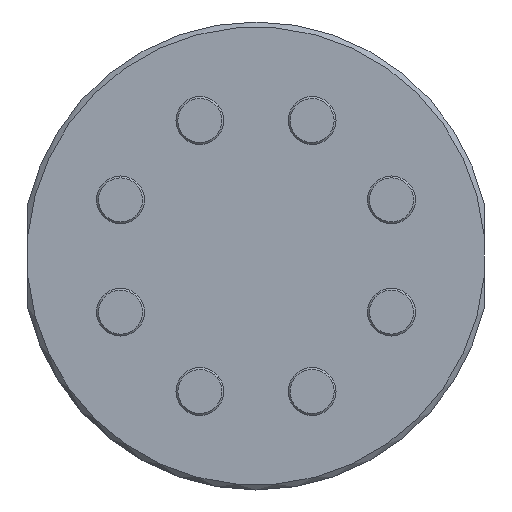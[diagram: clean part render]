
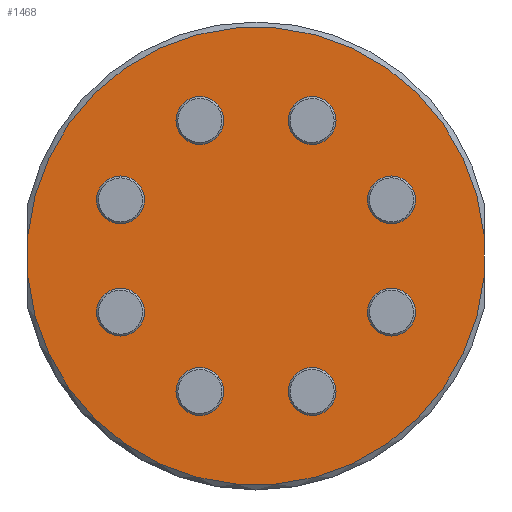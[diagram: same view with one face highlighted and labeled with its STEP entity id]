
A CAD part, front view. The second image highlights one B-rep face of the part: STEP entity #1468.
In plain terms, the highlighted planar face has unit normal (0, -1, 0).
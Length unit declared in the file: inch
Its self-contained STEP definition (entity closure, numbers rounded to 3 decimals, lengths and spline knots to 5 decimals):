
#100=LINE('',#2366,#136);
#102=LINE('',#2381,#138);
#136=VECTOR('',#1869,0.34232);
#138=VECTOR('',#1877,0.34232);
#193=PLANE('',#1597);
#251=FACE_BOUND('',#483,.T.);
#252=FACE_BOUND('',#484,.T.);
#253=FACE_BOUND('',#485,.T.);
#254=FACE_BOUND('',#486,.T.);
#255=FACE_BOUND('',#487,.T.);
#256=FACE_BOUND('',#488,.T.);
#257=FACE_BOUND('',#489,.T.);
#258=FACE_BOUND('',#490,.T.);
#369=FACE_OUTER_BOUND('',#482,.T.);
#482=EDGE_LOOP('',(#1121,#1122,#1123,#1124));
#483=EDGE_LOOP('',(#1125));
#484=EDGE_LOOP('',(#1126));
#485=EDGE_LOOP('',(#1127));
#486=EDGE_LOOP('',(#1128));
#487=EDGE_LOOP('',(#1129));
#488=EDGE_LOOP('',(#1130));
#489=EDGE_LOOP('',(#1131));
#490=EDGE_LOOP('',(#1132));
#660=CIRCLE('',#1555,0.1915);
#662=CIRCLE('',#1558,0.1915);
#664=CIRCLE('',#1561,0.1915);
#666=CIRCLE('',#1564,0.1915);
#668=CIRCLE('',#1567,0.1915);
#670=CIRCLE('',#1570,0.1915);
#672=CIRCLE('',#1573,0.1915);
#674=CIRCLE('',#1576,0.1915);
#684=CIRCLE('',#1598,1.835);
#685=CIRCLE('',#1599,1.835);
#768=VERTEX_POINT('',#2269);
#770=VERTEX_POINT('',#2274);
#772=VERTEX_POINT('',#2279);
#774=VERTEX_POINT('',#2284);
#776=VERTEX_POINT('',#2289);
#778=VERTEX_POINT('',#2294);
#780=VERTEX_POINT('',#2299);
#782=VERTEX_POINT('',#2304);
#797=VERTEX_POINT('',#2347);
#801=VERTEX_POINT('',#2362);
#804=VERTEX_POINT('',#2378);
#805=VERTEX_POINT('',#2380);
#908=EDGE_CURVE('',#768,#768,#660,.T.);
#910=EDGE_CURVE('',#770,#770,#662,.T.);
#912=EDGE_CURVE('',#772,#772,#664,.T.);
#914=EDGE_CURVE('',#774,#774,#666,.T.);
#916=EDGE_CURVE('',#776,#776,#668,.T.);
#918=EDGE_CURVE('',#778,#778,#670,.T.);
#920=EDGE_CURVE('',#780,#780,#672,.T.);
#922=EDGE_CURVE('',#782,#782,#674,.T.);
#942=EDGE_CURVE('',#797,#801,#100,.T.);
#946=EDGE_CURVE('',#804,#801,#684,.T.);
#947=EDGE_CURVE('',#804,#805,#102,.T.);
#948=EDGE_CURVE('',#797,#805,#685,.T.);
#1121=ORIENTED_EDGE('',*,*,#942,.T.);
#1122=ORIENTED_EDGE('',*,*,#946,.F.);
#1123=ORIENTED_EDGE('',*,*,#947,.T.);
#1124=ORIENTED_EDGE('',*,*,#948,.F.);
#1125=ORIENTED_EDGE('',*,*,#908,.T.);
#1126=ORIENTED_EDGE('',*,*,#910,.T.);
#1127=ORIENTED_EDGE('',*,*,#912,.T.);
#1128=ORIENTED_EDGE('',*,*,#914,.T.);
#1129=ORIENTED_EDGE('',*,*,#916,.T.);
#1130=ORIENTED_EDGE('',*,*,#918,.T.);
#1131=ORIENTED_EDGE('',*,*,#920,.T.);
#1132=ORIENTED_EDGE('',*,*,#922,.T.);
#1468=ADVANCED_FACE('',(#369,#251,#252,#253,#254,#255,#256,#257,#258),#193,
 .T.);
#1555=AXIS2_PLACEMENT_3D('',#2270,#1783,#1784);
#1558=AXIS2_PLACEMENT_3D('',#2275,#1789,#1790);
#1561=AXIS2_PLACEMENT_3D('',#2280,#1795,#1796);
#1564=AXIS2_PLACEMENT_3D('',#2285,#1801,#1802);
#1567=AXIS2_PLACEMENT_3D('',#2290,#1807,#1808);
#1570=AXIS2_PLACEMENT_3D('',#2295,#1813,#1814);
#1573=AXIS2_PLACEMENT_3D('',#2300,#1819,#1820);
#1576=AXIS2_PLACEMENT_3D('',#2305,#1825,#1826);
#1597=AXIS2_PLACEMENT_3D('',#2377,#1873,#1874);
#1598=AXIS2_PLACEMENT_3D('',#2379,#1875,#1876);
#1599=AXIS2_PLACEMENT_3D('',#2382,#1878,#1879);
#1783=DIRECTION('center_axis',(0.,1.,0.));
#1784=DIRECTION('ref_axis',(1.,0.,0.));
#1789=DIRECTION('center_axis',(0.,1.,0.));
#1790=DIRECTION('ref_axis',(1.,0.,0.));
#1795=DIRECTION('center_axis',(0.,1.,0.));
#1796=DIRECTION('ref_axis',(1.,0.,0.));
#1801=DIRECTION('center_axis',(0.,1.,0.));
#1802=DIRECTION('ref_axis',(1.,0.,0.));
#1807=DIRECTION('center_axis',(0.,1.,0.));
#1808=DIRECTION('ref_axis',(1.,0.,0.));
#1813=DIRECTION('center_axis',(0.,1.,0.));
#1814=DIRECTION('ref_axis',(1.,0.,0.));
#1819=DIRECTION('center_axis',(0.,1.,0.));
#1820=DIRECTION('ref_axis',(1.,0.,0.));
#1825=DIRECTION('center_axis',(0.,1.,0.));
#1826=DIRECTION('ref_axis',(1.,0.,0.));
#1869=DIRECTION('',(0.,0.,1.));
#1873=DIRECTION('center_axis',(0.,-1.,0.));
#1874=DIRECTION('ref_axis',(0.,0.,-1.));
#1875=DIRECTION('center_axis',(0.,1.,0.));
#1876=DIRECTION('ref_axis',(1.,0.,0.));
#1877=DIRECTION('',(0.,0.,-1.));
#1878=DIRECTION('center_axis',(0.,1.,0.));
#1879=DIRECTION('ref_axis',(1.,0.,0.));
#2269=CARTESIAN_POINT('',(-0.64115,-0.45,-1.08556));
#2270=CARTESIAN_POINT('Origin',(-0.44965,-0.45,-1.08556));
#2274=CARTESIAN_POINT('',(0.25815,-0.45,-1.08556));
#2275=CARTESIAN_POINT('Origin',(0.44965,-0.45,-1.08556));
#2279=CARTESIAN_POINT('',(0.89406,-0.45,-0.44965));
#2280=CARTESIAN_POINT('Origin',(1.08556,-0.45,-0.44965));
#2284=CARTESIAN_POINT('',(0.89406,-0.45,0.44965));
#2285=CARTESIAN_POINT('Origin',(1.08556,-0.45,0.44965));
#2289=CARTESIAN_POINT('',(0.25815,-0.45,1.08556));
#2290=CARTESIAN_POINT('Origin',(0.44965,-0.45,1.08556));
#2294=CARTESIAN_POINT('',(-0.64115,-0.45,1.08556));
#2295=CARTESIAN_POINT('Origin',(-0.44965,-0.45,1.08556));
#2299=CARTESIAN_POINT('',(-1.27706,-0.45,0.44965));
#2300=CARTESIAN_POINT('Origin',(-1.08556,-0.45,0.44965));
#2304=CARTESIAN_POINT('',(-1.27706,-0.45,-0.44965));
#2305=CARTESIAN_POINT('Origin',(-1.08556,-0.45,-0.44965));
#2347=CARTESIAN_POINT('',(1.827,-0.45,-0.17116));
#2362=CARTESIAN_POINT('',(1.827,-0.45,0.17116));
#2366=CARTESIAN_POINT('',(1.827,-0.45,0.));
#2377=CARTESIAN_POINT('Origin',(0.,-0.45,0.));
#2378=CARTESIAN_POINT('',(-1.827,-0.45,0.17116));
#2379=CARTESIAN_POINT('Origin',(0.,-0.45,0.));
#2380=CARTESIAN_POINT('',(-1.827,-0.45,-0.17116));
#2381=CARTESIAN_POINT('',(-1.827,-0.45,0.));
#2382=CARTESIAN_POINT('Origin',(0.,-0.45,0.));
